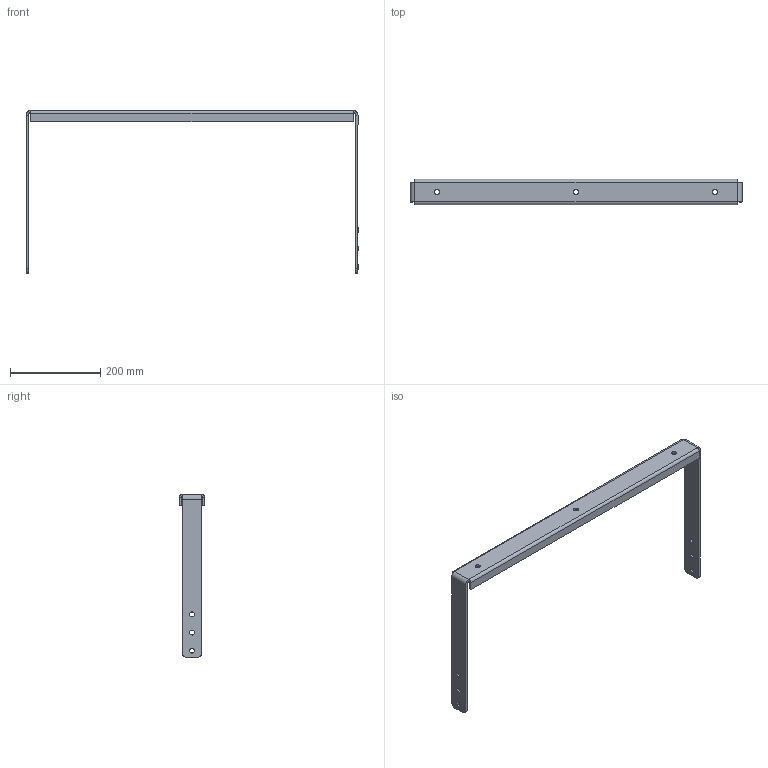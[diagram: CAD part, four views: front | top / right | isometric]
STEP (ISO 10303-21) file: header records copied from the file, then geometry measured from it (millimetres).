
FILE_DESCRIPTION(/* description */ (''),/* implementation_level */ '2;1');
FILE_NAME(/* name */ 'UB 15 Q.stp',/* time_stamp */ '2024-09-25T12:58:57+02:00',/* author */ ('d.streicher'),/* organization */ (''),/* preprocessor_version */ 'ST-DEVELOPER v20',/* originating_system */ 'Autodesk Inventor 2025',/* authorisation */ '');
FILE_SCHEMA (('AUTOMOTIVE_DESIGN { 1 0 10303 214 3 1 1 }'));
Length unit declared in the file: millimetre
Products named in the file (1): UB 15 Q
Bounding box: 734 x 56 x 360 mm (x, y, z)
Volume: 486472.1 mm3; surface area: 211363.7 mm2
Topology: 1 solids, 1 shells, 51 faces, 115 edges, 66 vertices
Faces by surface type: plane 30, cylinder 21
Full cylindrical faces by diameter (mm): 11 x9
Entity records: 1534 total; most frequent: DIRECTION 261, CARTESIAN_POINT 233, ORIENTED_EDGE 230, EDGE_CURVE 115, AXIS2_PLACEMENT_3D 94, LINE 73, VECTOR 73, EDGE_LOOP 69
